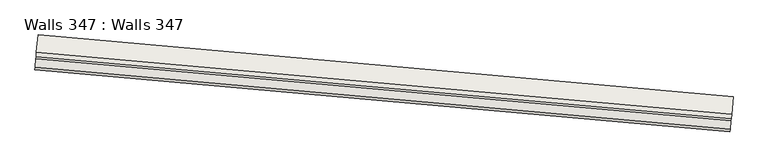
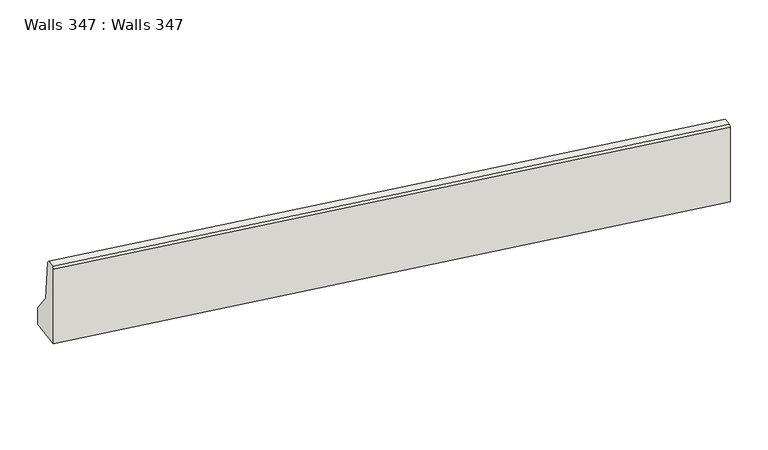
"""IFC4 building model written with IfcOpenShell, lengths in millimetres: wall geometry, Walls 347 : Walls 347."""

from ifc_helpers import new_model, si_unit, origin, place, context, project, spatial, faceted_brep, source, transform, mapped, element, save


def walls_347_walls_347_8469d8ad(model_context):
    return source(origin(), model_context, "Body", "Brep", [
        faceted_brep([(-774256.8883076, -409902.1144971, 637930.0), (-774239.1408426, -409702.9034846, 637680.0), (-774239.1408426, -409702.9034846, 637460.0), (-774274.6357727, -410101.3255095, 637460.0), (-774274.6357727, -410101.3255095, 638435.0), (-774272.4173395, -410076.424133, 638460.0), (-774263.543607, -409976.8186267, 638460.0), (-774261.3251739, -409951.9172502, 638435.0), (-766288.4478092, -410612.0130983, 637430.0), (-766292.8846754, -410661.8158514, 637935.0), (-766295.1031086, -410686.717228, 637960.0), (-766303.9768411, -410786.3227342, 637960.0), (-766306.1952742, -410811.2241108, 637935.0), (-766306.1952742, -410811.2241108, 636960.0), (-766270.7003441, -410412.8020859, 636960.0), (-766270.7003441, -410412.8020859, 637180.0)], [[[0, 1, 2, 3, 4, 5, 6, 7]], [[8, 9, 10, 11, 12, 13, 14, 15]], [[8, 15, 1, 0]], [[15, 14, 2, 1]], [[14, 13, 3, 2]], [[13, 12, 4, 3]], [[12, 11, 5, 4]], [[11, 10, 6, 5]], [[10, 9, 7, 6]], [[9, 8, 0, 7]]]),
    ])


if __name__ == "__main__":
    model = new_model("IFC4")
    model_context = context("Model", 3, world=origin())
    ifc_project = project(units=[si_unit("LENGTHUNIT", "METRE", prefix="MILLI")], contexts=[model_context])
    site = spatial("IfcSite", under=ifc_project)
    building = spatial("IfcBuilding", under=site)
    placement = place(None, origin())
    walls_347_walls_347_shape = walls_347_walls_347_8469d8ad(model_context)
    element("IfcWall", 1, ObjectType="Walls 347 : Walls 347", at=placement, inside=building, context=model_context, shape_type="MappedRepresentation", body=[
        mapped(walls_347_walls_347_shape, transform((0.0, 0.0, 0.0), x_axis=(1.0, 0.0, 0.0), y_axis=(0.0, 1.0, 0.0), z_axis=(0.0, 0.0, 1.0))),
    ])
    save(model, "model.ifc")
